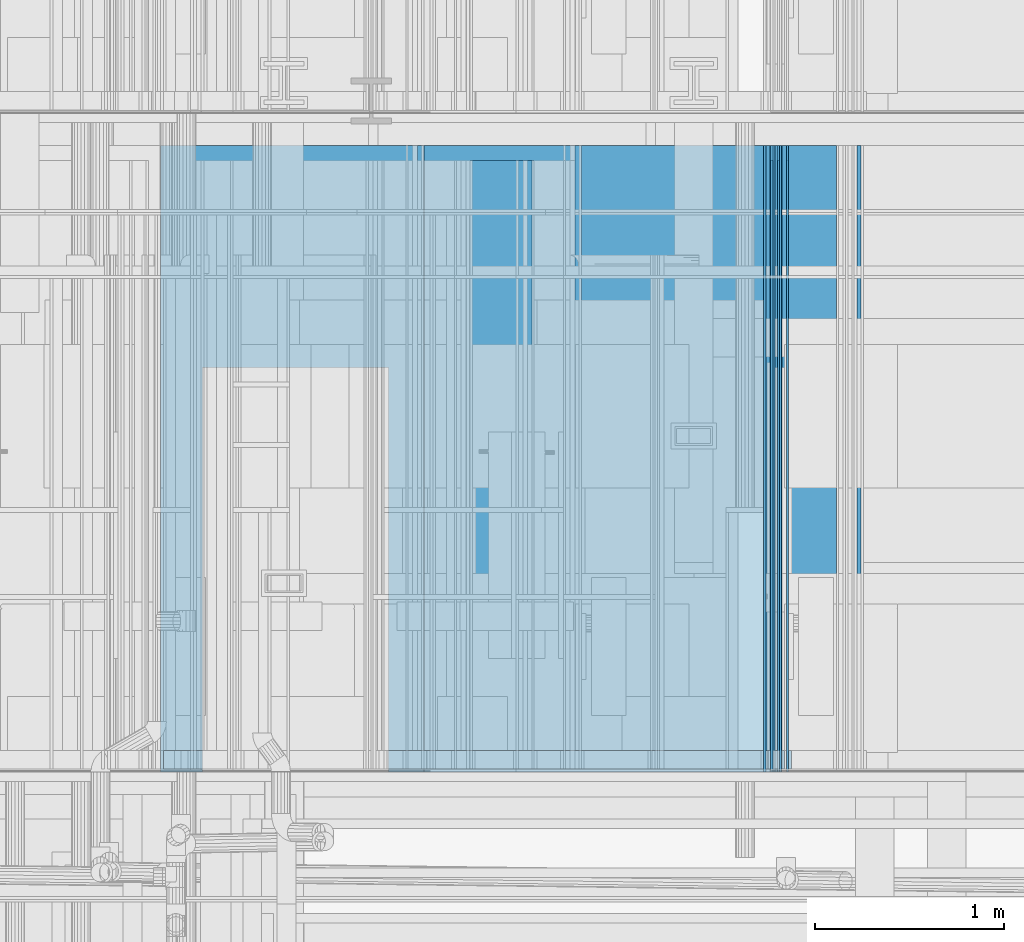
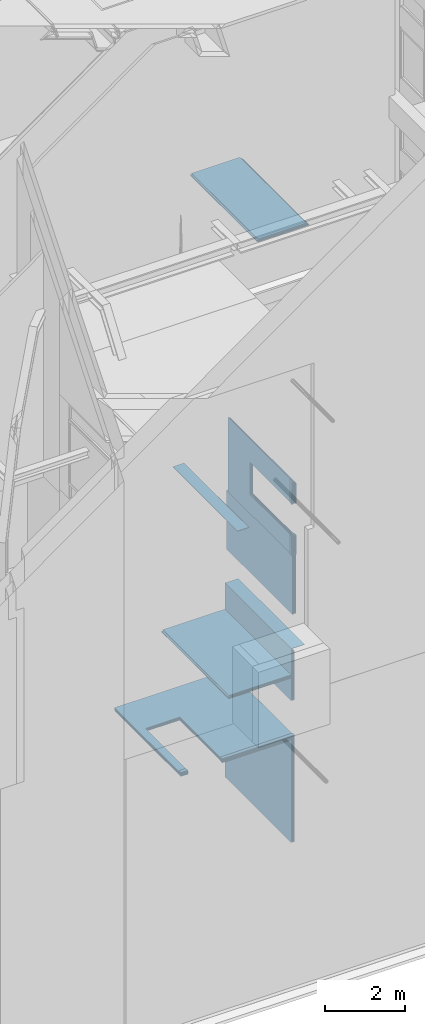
# One storey, part 101 of 583: 28 building element parts, 3 openings, 9 elements without a shape of their own.
"""IFC2X3 building model written with IfcOpenShell, lengths in metres."""

from ifc_helpers import new_model, entity, si_unit, converted_unit, derived_unit, money_unit, direction, frame, frame_2d, origin_with_axes, place, context, subcontext, project, spatial, polyline, rectangle, outline, extrude, material, type_object, element, aggregate, save


model = new_model("IFC2X3")

# Units and contexts
model_context = context("Model", 3, precision=1e-05, world=origin_with_axes(), true_north=direction((0.0, 1.0)))
body_context = subcontext(model_context, "Body", "Model", "MODEL_VIEW", scale=1.0)
ifc_project = project(units=[si_unit("LENGTHUNIT", "METRE"), si_unit("AREAUNIT", "SQUARE_METRE"), si_unit("VOLUMEUNIT", "CUBIC_METRE"), si_unit("ABSORBEDDOSEUNIT", "GRAY"), si_unit("AMOUNTOFSUBSTANCEUNIT", "MOLE"), si_unit("DOSEEQUIVALENTUNIT", "SIEVERT"), si_unit("ELECTRICCAPACITANCEUNIT", "FARAD"), si_unit("ELECTRICCHARGEUNIT", "COULOMB"), si_unit("ELECTRICCONDUCTANCEUNIT", "SIEMENS"), si_unit("ELECTRICCURRENTUNIT", "AMPERE"), si_unit("ELECTRICRESISTANCEUNIT", "OHM"), si_unit("ELECTRICVOLTAGEUNIT", "VOLT"), si_unit("ENERGYUNIT", "JOULE"), si_unit("FORCEUNIT", "NEWTON"), si_unit("FREQUENCYUNIT", "HERTZ"), si_unit("ILLUMINANCEUNIT", "LUX"), si_unit("INDUCTANCEUNIT", "HENRY"), si_unit("LUMINOUSFLUXUNIT", "LUMEN"), si_unit("LUMINOUSINTENSITYUNIT", "CANDELA"), si_unit("MAGNETICFLUXDENSITYUNIT", "TESLA"), si_unit("MAGNETICFLUXUNIT", "WEBER"), si_unit("MASSUNIT", "GRAM"), converted_unit("PLANEANGLEUNIT", "degree", entity("IfcReal", 0.0174532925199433), si_unit("PLANEANGLEUNIT", "RADIAN"), dimensions=[0, 0, 0, 0, 0, 0, 0]), si_unit("POWERUNIT", "WATT"), si_unit("PRESSUREUNIT", "PASCAL"), si_unit("RADIOACTIVITYUNIT", "BECQUEREL"), si_unit("SOLIDANGLEUNIT", "STERADIAN"), si_unit("THERMODYNAMICTEMPERATUREUNIT", "KELVIN"), si_unit("TIMEUNIT", "SECOND"), derived_unit("ACCELERATIONUNIT", [(si_unit("LENGTHUNIT", "METRE"), 1), (si_unit("TIMEUNIT", "SECOND"), -2)]), derived_unit("ANGULARVELOCITYUNIT", [(converted_unit("PLANEANGLEUNIT", "degree", entity("IfcReal", 0.0174532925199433), si_unit("PLANEANGLEUNIT", "RADIAN"), dimensions=[0, 0, 0, 0, 0, 0, 0]), 1), (si_unit("TIMEUNIT", "SECOND"), -1)]), derived_unit("CURVATUREUNIT", [(converted_unit("PLANEANGLEUNIT", "degree", entity("IfcReal", 0.0174532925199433), si_unit("PLANEANGLEUNIT", "RADIAN"), dimensions=[0, 0, 0, 0, 0, 0, 0]), 1), (si_unit("LENGTHUNIT", "METRE"), -1)]), derived_unit("DYNAMICVISCOSITYUNIT", [(si_unit("PRESSUREUNIT", "PASCAL"), 1), (si_unit("TIMEUNIT", "SECOND"), 1)]), derived_unit("HEATFLUXDENSITYUNIT", [(si_unit("POWERUNIT", "WATT"), 1), (si_unit("LENGTHUNIT", "METRE"), -2)]), derived_unit("HEATINGVALUEUNIT", [(si_unit("ENERGYUNIT", "JOULE"), 1), (si_unit("MASSUNIT", "GRAM"), -1)]), derived_unit("INTEGERCOUNTRATEUNIT", [(si_unit("TIMEUNIT", "SECOND"), -1)]), derived_unit("IONCONCENTRATIONUNIT", [(si_unit("MASSUNIT", "GRAM"), 1), (si_unit("VOLUMEUNIT", "CUBIC_METRE"), -1)]), derived_unit("ISOTHERMALMOISTURECAPACITYUNIT", [(si_unit("VOLUMEUNIT", "CUBIC_METRE"), 1), (si_unit("MASSUNIT", "GRAM"), -1)]), derived_unit("KINEMATICVISCOSITYUNIT", [(si_unit("AREAUNIT", "SQUARE_METRE"), 1), (si_unit("TIMEUNIT", "SECOND"), -1)]), derived_unit("LINEARFORCEUNIT", [(si_unit("FORCEUNIT", "NEWTON"), 1), (si_unit("LENGTHUNIT", "METRE"), -1)]), derived_unit("LINEARMOMENTUNIT", [(si_unit("FORCEUNIT", "NEWTON"), 1), (si_unit("LENGTHUNIT", "METRE"), -1)]), derived_unit("LINEARSTIFFNESSUNIT", [(si_unit("FORCEUNIT", "NEWTON"), 1), (si_unit("LENGTHUNIT", "METRE"), -1)]), derived_unit("LINEARVELOCITYUNIT", [(si_unit("LENGTHUNIT", "METRE"), 1), (si_unit("TIMEUNIT", "SECOND"), -1)]), derived_unit("LUMINOUSINTENSITYDISTRIBUTIONUNIT", [(si_unit("LUMINOUSINTENSITYUNIT", "CANDELA"), 1), (si_unit("LUMINOUSFLUXUNIT", "LUMEN"), -1)]), derived_unit("MASSDENSITYUNIT", [(si_unit("MASSUNIT", "GRAM"), 1), (si_unit("VOLUMEUNIT", "CUBIC_METRE"), -1)]), derived_unit("MASSFLOWRATEUNIT", [(si_unit("MASSUNIT", "GRAM"), 1), (si_unit("TIMEUNIT", "SECOND"), -1)]), derived_unit("MASSPERLENGTHUNIT", [(si_unit("MASSUNIT", "GRAM"), 1), (si_unit("LENGTHUNIT", "METRE"), -1)]), derived_unit("MODULUSOFELASTICITYUNIT", [(si_unit("FORCEUNIT", "NEWTON"), 1), (si_unit("AREAUNIT", "SQUARE_METRE"), -1)]), derived_unit("MODULUSOFLINEARSUBGRADEREACTIONUNIT", [(si_unit("FORCEUNIT", "NEWTON"), 1), (si_unit("LENGTHUNIT", "METRE"), -2)]), derived_unit("MODULUSOFROTATIONALSUBGRADEREACTIONUNIT", [(si_unit("FORCEUNIT", "NEWTON"), 1), (si_unit("LENGTHUNIT", "METRE"), 1)]), derived_unit("MODULUSOFSUBGRADEREACTIONUNIT", [(si_unit("FORCEUNIT", "NEWTON"), 1), (si_unit("VOLUMEUNIT", "CUBIC_METRE"), -1)]), derived_unit("MOISTUREDIFFUSIVITYUNIT", [(si_unit("VOLUMEUNIT", "CUBIC_METRE"), 1), (si_unit("TIMEUNIT", "SECOND"), -1)]), derived_unit("MOLECULARWEIGHTUNIT", [(si_unit("MASSUNIT", "GRAM"), 1), (si_unit("AMOUNTOFSUBSTANCEUNIT", "MOLE"), -1)]), derived_unit("PLANARFORCEUNIT", [(si_unit("FORCEUNIT", "NEWTON"), 1), (si_unit("LENGTHUNIT", "METRE"), -2)]), derived_unit("ROTATIONALFREQUENCYUNIT", [(si_unit("TIMEUNIT", "SECOND"), -1)]), derived_unit("ROTATIONALMASSUNIT", [(si_unit("MASSUNIT", "GRAM"), 1), (si_unit("LENGTHUNIT", "METRE"), 2)]), derived_unit("ROTATIONALSTIFFNESSUNIT", [(si_unit("FORCEUNIT", "NEWTON"), 1), (si_unit("LENGTHUNIT", "METRE"), 1), (converted_unit("PLANEANGLEUNIT", "degree", entity("IfcReal", 0.0174532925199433), si_unit("PLANEANGLEUNIT", "RADIAN"), dimensions=[0, 0, 0, 0, 0, 0, 0]), -1)]), derived_unit("SECTIONAREAINTEGRALUNIT", [(si_unit("LENGTHUNIT", "METRE"), 5)]), derived_unit("SECTIONMODULUSUNIT", [(si_unit("LENGTHUNIT", "METRE"), 3)]), derived_unit("SHEARMODULUSUNIT", [(si_unit("FORCEUNIT", "NEWTON"), 1), (si_unit("AREAUNIT", "SQUARE_METRE"), -1)]), derived_unit("SOUNDPOWERUNIT", [(si_unit("ENERGYUNIT", "JOULE"), 1), (si_unit("TIMEUNIT", "SECOND"), -1)]), derived_unit("SPECIFICHEATCAPACITYUNIT", [(si_unit("FORCEUNIT", "NEWTON"), 1), (si_unit("MASSUNIT", "GRAM"), -1), (si_unit("THERMODYNAMICTEMPERATUREUNIT", "KELVIN"), -1)]), derived_unit("TEMPERATUREGRADIENTUNIT", [(si_unit("THERMODYNAMICTEMPERATUREUNIT", "KELVIN"), 1), (si_unit("LENGTHUNIT", "METRE"), -1)]), derived_unit("THERMALADMITTANCEUNIT", [(si_unit("POWERUNIT", "WATT"), 1), (si_unit("AREAUNIT", "SQUARE_METRE"), -1), (si_unit("THERMODYNAMICTEMPERATUREUNIT", "KELVIN"), -1)]), derived_unit("THERMALCONDUCTANCEUNIT", [(si_unit("POWERUNIT", "WATT"), 1), (si_unit("LENGTHUNIT", "METRE"), -1), (si_unit("THERMODYNAMICTEMPERATUREUNIT", "KELVIN"), -1)]), derived_unit("THERMALEXPANSIONCOEFFICIENTUNIT", [(si_unit("THERMODYNAMICTEMPERATUREUNIT", "KELVIN"), -1)]), derived_unit("THERMALRESISTANCEUNIT", [(si_unit("AREAUNIT", "SQUARE_METRE"), 1), (si_unit("POWERUNIT", "WATT"), -1)]), derived_unit("THERMALTRANSMITTANCEUNIT", [(si_unit("POWERUNIT", "WATT"), 1), (si_unit("AREAUNIT", "SQUARE_METRE"), -1), (si_unit("THERMODYNAMICTEMPERATUREUNIT", "KELVIN"), -1)]), derived_unit("TORQUEUNIT", [(si_unit("FORCEUNIT", "NEWTON"), 1), (si_unit("LENGTHUNIT", "METRE"), 1)]), derived_unit("VAPORPERMEABILITYUNIT", [(si_unit("MASSUNIT", "GRAM"), 1), (si_unit("TIMEUNIT", "SECOND"), -1)]), derived_unit("VOLUMETRICFLOWRATEUNIT", [(si_unit("VOLUMEUNIT", "CUBIC_METRE"), 1), (si_unit("TIMEUNIT", "SECOND"), -1)]), derived_unit("WARPINGCONSTANTUNIT", [(si_unit("LENGTHUNIT", "METRE"), 6)]), derived_unit("WARPINGMOMENTUNIT", [(si_unit("FORCEUNIT", "NEWTON"), 1), (si_unit("LENGTHUNIT", "METRE"), 2)]), money_unit("GBP")], contexts=[model_context])

# Site, building, storey
site_placement = place(None, origin_with_axes())
site = spatial("IfcSite", under=ifc_project, at=site_placement, Name="Site", CompositionType="ELEMENT")
building_placement = place(site_placement, origin_with_axes())
building = spatial("IfcBuilding", under=site, at=building_placement, Name="Building01", CompositionType="ELEMENT")
storey_placement = place(building_placement, frame((0.0, 0.0, 20.78), z_axis=(0.0, 0.0, 1.0), x_axis=(1.0, 0.0, 0.0)))
storey = spatial("IfcBuildingStorey", under=building, at=storey_placement, Name="RL", CompositionType="ELEMENT", Elevation=20.78)

# Wall, building element parts
wall_type = type_object("IfcWallType", Name="SHE_A-Walls_Type05a_Partition_95mm_tall", PredefinedType="NOTDEFINED")
wall_1_placement = place(storey_placement, frame((10.63, 5.15, -1.694716), z_axis=(0.0, 1.0, 0.0), x_axis=(1.0, 0.0, 0.0)))
wall_1 = element("IfcWall", 1, at=wall_1_placement, inside=storey, type_object=wall_type, Name="5A", ObjectType="SHE_A-Walls_Type05a_Partition_95mm_tall")
ifc_material_1 = material(Name="A_BSUK_Insulation")
placement_1 = place(wall_1_placement, origin_with_axes())
building_element_part_1 = element("IfcBuildingElementPart", 2, at=placement_1, material=ifc_material_1, Name="1", context=body_context, shape_type="SweptSolid", body=[
    extrude(outline(polyline([(1.494378, 0.025), (0.0, 0.025), (0.0, 0.0), (1.469378, 0.0), (1.494378, 0.025)])), origin_with_axes(), (0.0, 0.0, 1.0), 3.32),
])
ifc_material_2 = material(Name="A_BSUK_WallInternal_Finishes_Plasterboard")
building_element_part_2 = element("IfcBuildingElementPart", 3, at=placement_1, material=ifc_material_2, Name="4", context=body_context, shape_type="SweptSolid", body=[
    extrude(outline(polyline([(1.529378, 0.06), (0.035, 0.06), (0.035, 0.048), (1.517378, 0.048), (1.529378, 0.06)])), origin_with_axes(), (0.0, 0.0, 1.0), 3.32),
])
building_element_part_3 = element("IfcBuildingElementPart", 4, at=placement_1, material=ifc_material_2, Name="5", context=body_context, shape_type="SweptSolid", body=[
    extrude(outline(polyline([(1.446378, -0.023), (0.035, -0.023), (0.035, -0.035), (1.434378, -0.035), (1.446378, -0.023)])), origin_with_axes(), (0.0, 0.0, 1.0), 3.32),
])
aggregate(wall_1, [building_element_part_1, building_element_part_2, building_element_part_3])

wall_2_placement = place(storey_placement, frame((11.703124, 5.15, -11.69), z_axis=(0.0, 1.0, 0.0), x_axis=(0.0, 0.0, -1.0)))
wall_2 = element("IfcWall", 5, at=wall_2_placement, inside=storey, type_object=wall_type, Name="5A", ObjectType="SHE_A-Walls_Type05a_Partition_95mm_tall")
placement_2 = place(wall_2_placement, origin_with_axes())
building_element_part_4 = element("IfcBuildingElementPart", 6, at=placement_2, material=ifc_material_1, Name="1", context=body_context, shape_type="SweptSolid", body=[
    extrude(rectangle(XDim=1.800331, YDim=0.025, at=frame_2d((0.900166, -0.0125), x_axis=(1.0, 0.0))), origin_with_axes(), (0.0, 0.0, 1.0), 3.32),
])
building_element_part_5 = element("IfcBuildingElementPart", 7, at=placement_2, material=ifc_material_2, Name="4", context=body_context, shape_type="SweptSolid", body=[
    extrude(rectangle(XDim=1.800331, YDim=0.012, at=frame_2d((0.900166, 0.029), x_axis=(1.0, 0.0))), origin_with_axes(), (0.0, 0.0, 1.0), 3.32),
])
building_element_part_6 = element("IfcBuildingElementPart", 8, at=placement_2, material=ifc_material_2, Name="5", context=body_context, shape_type="SweptSolid", body=[
    extrude(rectangle(XDim=1.800331, YDim=0.012, at=frame_2d((0.900166, -0.054), x_axis=(1.0, 0.0))), origin_with_axes(), (0.0, 0.0, 1.0), 3.32),
])
aggregate(wall_2, [building_element_part_4, building_element_part_5, building_element_part_6])

# Wall, openings, building element parts
wall_3_placement = place(storey_placement, frame((11.703124, 5.15, -11.69), z_axis=(0.0, 1.0, 0.0), x_axis=(0.0, 0.0, 1.0)))
wall_3 = element("IfcWall", 9, at=wall_3_placement, inside=storey, type_object=wall_type, Name="5A", ObjectType="SHE_A-Walls_Type05a_Partition_95mm_tall")
opening_1_placement = place(wall_3_placement, frame((0.621, 0.005, -0.015), z_axis=(0.0, 0.0, 1.0), x_axis=(1.0, 0.0, 0.0)))
element("IfcOpeningElement", 10, at=opening_1_placement, cuts=wall_3, Name="Opening", ObjectType="Opening", context=body_context, shape_type="SweptSolid", body=[
    extrude(rectangle(XDim=0.9, YDim=2.142, at=frame_2d((-0.45, 1.071), x_axis=(1.0, 0.0))), frame((0.0, -3.353722, 0.0), z_axis=(0.0, 1.0, 0.0), x_axis=(-1.0, 0.0, 0.0)), (0.0, 0.0, 1.0), 6.707444),
])
opening_2_placement = place(wall_3_placement, frame((0.579, 0.06, 0.0), z_axis=(0.0, 0.0, 1.0), x_axis=(1.0, 0.0, 0.0)))
element("IfcOpeningElement", 11, at=opening_2_placement, cuts=wall_3, Name="Opening", ObjectType="Opening", context=body_context, shape_type="SweptSolid", body=[
    extrude(rectangle(XDim=2.142, YDim=0.984, at=frame_2d((-0.492, 1.071), x_axis=(0.0, -1.0))), frame((0.0, -4.371196, 0.0), z_axis=(0.0, 1.0, 0.0), x_axis=(-1.0, 0.0, 0.0)), (0.0, 0.0, 1.0), 8.742391),
])
placement_3 = place(wall_3_placement, origin_with_axes())
building_element_part_7 = element("IfcBuildingElementPart", 12, at=placement_3, material=ifc_material_1, Name="1", context=body_context, shape_type="SweptSolid", body=[
    extrude(rectangle(XDim=2.25, YDim=0.025, at=frame_2d((1.125, 0.0125), x_axis=(-1.0, 0.0))), origin_with_axes(), (0.0, 0.0, 1.0), 3.24),
])
ifc_material_3 = material(Name="A_BSUK_Walls_Timber")
building_element_part_8 = element("IfcBuildingElementPart", 13, at=placement_3, material=ifc_material_3, Name="2", context=body_context, shape_type="SweptSolid", body=[
    extrude(outline(polyline([(2.175, 0.075), (0.0, 0.075), (0.0, 0.06), (2.19, 0.06), (2.175, 0.075)])), frame((0.0, 0.0, 0.015), z_axis=(0.0, 0.0, 1.0), x_axis=(1.0, 0.0, 0.0)), (0.0, 0.0, 1.0), 0.1),
])
building_element_part_9 = element("IfcBuildingElementPart", 14, at=placement_3, material=ifc_material_3, Name="3", context=body_context, shape_type="SweptSolid", body=[
    extrude(outline(polyline([(2.285, -0.035), (0.0, -0.035), (0.0, -0.05), (2.3, -0.05), (2.285, -0.035)])), frame((0.0, 0.0, 0.015), z_axis=(0.0, 0.0, 1.0), x_axis=(1.0, 0.0, 0.0)), (0.0, 0.0, 1.0), 0.1),
])
building_element_part_10 = element("IfcBuildingElementPart", 15, at=placement_3, material=ifc_material_2, Name="4", context=body_context, shape_type="SweptSolid", body=[
    extrude(outline(polyline([(2.19, 0.06), (0.0, 0.06), (0.0, 0.048), (2.202, 0.048), (2.19, 0.06)])), origin_with_axes(), (0.0, 0.0, 1.0), 3.24),
])
building_element_part_11 = element("IfcBuildingElementPart", 16, at=placement_3, material=ifc_material_2, Name="5", context=body_context, shape_type="SweptSolid", body=[
    extrude(outline(polyline([(2.273, -0.023), (0.0, -0.023), (0.0, -0.035), (2.285, -0.035), (2.273, -0.023)])), origin_with_axes(), (0.0, 0.0, 1.0), 3.24),
])
aggregate(wall_3, [building_element_part_7, building_element_part_8, building_element_part_9, building_element_part_10, building_element_part_11])

# Wall, building element part
wall_4_placement = place(storey_placement, frame((11.66567, 5.15, -14.550331), z_axis=(0.0, 1.0, 0.0), x_axis=(1.0, 0.0, 0.0)))
wall_4 = element("IfcWall", 17, at=wall_4_placement, inside=storey, type_object=wall_type, Name="5A", ObjectType="SHE_A-Walls_Type05a_Partition_95mm_tall")
building_element_part_12_placement = place(wall_4_placement, origin_with_axes())
building_element_part_12 = element("IfcBuildingElementPart", 18, at=building_element_part_12_placement, material=ifc_material_2, Name="5", context=body_context, shape_type="SweptSolid", body=[
    extrude(outline(polyline([(0.35, -0.023), (-0.023, -0.023), (-0.035, -0.035), (0.35, -0.035), (0.35, -0.023)])), origin_with_axes(), (0.0, 0.0, 1.0), 3.32),
])
aggregate(wall_4, [building_element_part_12])

# Wall, building element parts
wall_5_placement = place(storey_placement, frame((11.66567, 5.15, -16.110331), z_axis=(0.0, 1.0, 0.0), x_axis=(0.0, 0.0, 1.0)))
wall_5 = element("IfcWall", 19, at=wall_5_placement, inside=storey, type_object=wall_type, Name="5A", ObjectType="SHE_A-Walls_Type05a_Partition_95mm_tall")
placement_4 = place(wall_5_placement, origin_with_axes())
building_element_part_13 = element("IfcBuildingElementPart", 20, at=placement_4, material=ifc_material_1, Name="1", context=body_context, shape_type="SweptSolid", body=[
    extrude(outline(polyline([(1.535, 0.025), (0.0, 0.025), (0.0, 0.0), (1.56, 0.0), (1.535, 0.025)])), origin_with_axes(), (0.0, 0.0, 1.0), 3.32),
])
building_element_part_14 = element("IfcBuildingElementPart", 21, at=placement_4, material=ifc_material_2, Name="5", context=body_context, shape_type="SweptSolid", body=[
    extrude(outline(polyline([(1.5, 0.06), (0.0, 0.06), (0.0, 0.048), (1.512, 0.048), (1.5, 0.06)])), origin_with_axes(), (0.0, 0.0, 1.0), 3.32),
])
building_element_part_15 = element("IfcBuildingElementPart", 22, at=placement_4, material=ifc_material_2, Name="6", context=body_context, shape_type="SweptSolid", body=[
    extrude(rectangle(XDim=0.712, YDim=0.012, at=frame_2d((0.356, -0.029), x_axis=(-1.0, 0.0))), origin_with_axes(), (0.0, 0.0, 1.0), 3.32),
])
building_element_part_16 = element("IfcBuildingElementPart", 23, at=placement_4, material=ifc_material_2, Name="7", context=body_context, shape_type="SweptSolid", body=[
    extrude(outline(polyline([(1.583, -0.023), (0.783, -0.023), (0.783, -0.035), (1.595, -0.035), (1.583, -0.023)])), origin_with_axes(), (0.0, 0.0, 1.0), 3.32),
])
aggregate(wall_5, [building_element_part_13, building_element_part_14, building_element_part_15, building_element_part_16])

# Wall, opening, building element parts
wall_6_placement = place(storey_placement, frame((8.43567, 5.15, -17.245331), z_axis=(0.0, 1.0, 0.0), x_axis=(1.0, 0.0, 0.0)))
wall_6 = element("IfcWall", 24, at=wall_6_placement, inside=storey, type_object=wall_type, Name="5A", ObjectType="SHE_A-Walls_Type05a_Partition_95mm_tall")
opening_3_placement = place(wall_6_placement, frame((0.223034, 0.06, 0.0), z_axis=(0.0, 0.0, 1.0), x_axis=(1.0, 0.0, 0.0)))
element("IfcOpeningElement", 25, at=opening_3_placement, cuts=wall_6, Name="Opening", ObjectType="Opening", context=body_context, shape_type="SweptSolid", body=[
    extrude(rectangle(XDim=2.142, YDim=0.984, at=frame_2d((-0.492, 1.071), x_axis=(0.0, -1.0))), frame((0.0, -5.095613, 0.0), z_axis=(0.0, 1.0, 0.0), x_axis=(-1.0, 0.0, 0.0)), (0.0, 0.0, 1.0), 10.191225),
])
placement_5 = place(wall_6_placement, origin_with_axes())
building_element_part_17 = element("IfcBuildingElementPart", 26, at=placement_5, material=ifc_material_1, Name="1", context=body_context, shape_type="SweptSolid", body=[
    extrude(rectangle(XDim=3.23, YDim=0.025, at=frame_2d((1.615, 0.0125), x_axis=(-1.0, 0.0))), origin_with_axes(), (0.0, 0.0, 1.0), 3.32),
])
building_element_part_18 = element("IfcBuildingElementPart", 27, at=placement_5, material=ifc_material_3, Name="2", context=body_context, shape_type="SweptSolid", body=[
    extrude(outline(polyline([(3.18, 0.075), (0.015, 0.075), (0.015, 0.06), (3.195, 0.06), (3.18, 0.075)])), frame((0.0, 0.0, 0.015), z_axis=(0.0, 0.0, 1.0), x_axis=(1.0, 0.0, 0.0)), (0.0, 0.0, 1.0), 0.1),
])
building_element_part_19 = element("IfcBuildingElementPart", 28, at=placement_5, material=ifc_material_3, Name="3", context=body_context, shape_type="SweptSolid", body=[
    extrude(outline(polyline([(3.29, -0.035), (0.015, -0.035), (0.015, -0.05), (3.305, -0.05), (3.29, -0.035)])), frame((0.0, 0.0, 0.015), z_axis=(0.0, 0.0, 1.0), x_axis=(1.0, 0.0, 0.0)), (0.0, 0.0, 1.0), 0.1),
])
building_element_part_20 = element("IfcBuildingElementPart", 29, at=placement_5, material=ifc_material_2, Name="4", context=body_context, shape_type="SweptSolid", body=[
    extrude(outline(polyline([(3.195, 0.06), (0.0, 0.06), (0.0, 0.048), (3.207, 0.048), (3.195, 0.06)])), origin_with_axes(), (0.0, 0.0, 1.0), 3.32),
])
building_element_part_21 = element("IfcBuildingElementPart", 30, at=placement_5, material=ifc_material_2, Name="5", context=body_context, shape_type="SweptSolid", body=[
    extrude(outline(polyline([(3.278, -0.023), (0.0, -0.023), (0.0, -0.035), (3.29, -0.035), (3.278, -0.023)])), origin_with_axes(), (0.0, 0.0, 1.0), 3.32),
])
aggregate(wall_6, [building_element_part_17, building_element_part_18, building_element_part_19, building_element_part_20, building_element_part_21])

# Wall, building element parts
wall_7_placement = place(storey_placement, frame((9.79567, 5.15, -15.350331), z_axis=(0.0, 1.0, 0.0), x_axis=(1.0, 0.0, 0.0)))
wall_7 = element("IfcWall", 31, at=wall_7_placement, inside=storey, type_object=wall_type, Name="5A", ObjectType="SHE_A-Walls_Type05a_Partition_95mm_tall")
placement_6 = place(wall_7_placement, origin_with_axes())
building_element_part_22 = element("IfcBuildingElementPart", 32, at=placement_6, material=ifc_material_1, Name="1", context=body_context, shape_type="SweptSolid", body=[
    extrude(rectangle(XDim=1.87, YDim=0.025, at=frame_2d((0.935, 0.0125), x_axis=(-1.0, 0.0))), origin_with_axes(), (0.0, 0.0, 1.0), 3.32),
])
building_element_part_23 = element("IfcBuildingElementPart", 33, at=placement_6, material=ifc_material_2, Name="4", context=body_context, shape_type="SweptSolid", body=[
    extrude(rectangle(XDim=1.8, YDim=0.012, at=frame_2d((0.935, 0.054), x_axis=(-1.0, 0.0))), origin_with_axes(), (0.0, 0.0, 1.0), 3.32),
])
building_element_part_24 = element("IfcBuildingElementPart", 34, at=placement_6, material=ifc_material_2, Name="5", context=body_context, shape_type="SweptSolid", body=[
    extrude(rectangle(XDim=1.8, YDim=0.012, at=frame_2d((0.935, -0.029), x_axis=(-1.0, 0.0))), origin_with_axes(), (0.0, 0.0, 1.0), 3.32),
])
aggregate(wall_7, [building_element_part_22, building_element_part_23, building_element_part_24])

# Wall, building element part
wall_8_placement = place(storey_placement, frame((8.82, 5.15, -10.326129), z_axis=(0.0, 1.0, 0.0), x_axis=(1.0, 0.0, 0.0)))
wall_8 = element("IfcWall", 35, at=wall_8_placement, inside=storey, type_object=wall_type, Name="5A", ObjectType="SHE_A-Walls_Type05a_Partition_95mm_tall")
building_element_part_25_placement = place(wall_8_placement, origin_with_axes())
building_element_part_25 = element("IfcBuildingElementPart", 36, at=building_element_part_25_placement, material=ifc_material_2, Name="6", context=body_context, shape_type="SweptSolid", body=[
    extrude(outline(polyline([(1.595, 0.06), (1.255704, 0.06), (1.255704, 0.048), (1.583, 0.048), (1.595, 0.06)])), origin_with_axes(), (0.0, 0.0, 1.0), 3.24),
])
aggregate(wall_8, [building_element_part_25])

# Wall, building element parts
wall_9_placement = place(storey_placement, frame((11.69067, 5.15, -20.447), z_axis=(0.0, 1.0, 0.0), x_axis=(0.0, 0.0, 1.0)))
wall_9 = element("IfcWall", 37, at=wall_9_placement, inside=storey, type_object=wall_type, Name="5A", ObjectType="SHE_A-Walls_Type05a_Partition_95mm_tall")
placement_7 = place(wall_9_placement, origin_with_axes())
building_element_part_26 = element("IfcBuildingElementPart", 38, at=placement_7, material=ifc_material_1, Name="1", context=body_context, shape_type="SweptSolid", body=[
    extrude(rectangle(XDim=3.201669, YDim=0.025, at=frame_2d((1.600834, -0.0125), x_axis=(-1.0, 0.0))), origin_with_axes(), (0.0, 0.0, 1.0), 3.32),
])
building_element_part_27 = element("IfcBuildingElementPart", 39, at=placement_7, material=ifc_material_2, Name="4", context=body_context, shape_type="SweptSolid", body=[
    extrude(outline(polyline([(3.153669, -0.048), (0.0, -0.048), (0.0, -0.06), (3.141669, -0.06), (3.153669, -0.048)])), origin_with_axes(), (0.0, 0.0, 1.0), 3.32),
])
building_element_part_28 = element("IfcBuildingElementPart", 40, at=placement_7, material=ifc_material_2, Name="5", context=body_context, shape_type="SweptSolid", body=[
    extrude(outline(polyline([(3.236669, 0.035), (0.0, 0.035), (0.0, 0.023), (3.224669, 0.023), (3.236669, 0.035)])), origin_with_axes(), (0.0, 0.0, 1.0), 3.32),
])
aggregate(wall_9, [building_element_part_26, building_element_part_27, building_element_part_28])

save(model, "model.ifc")
